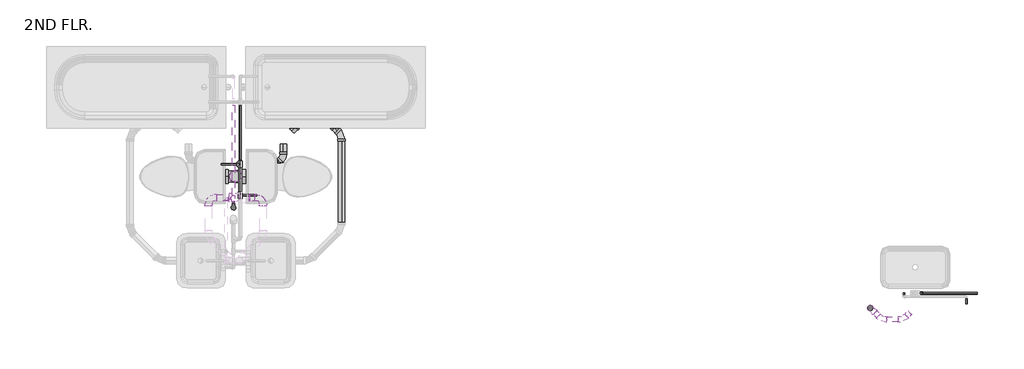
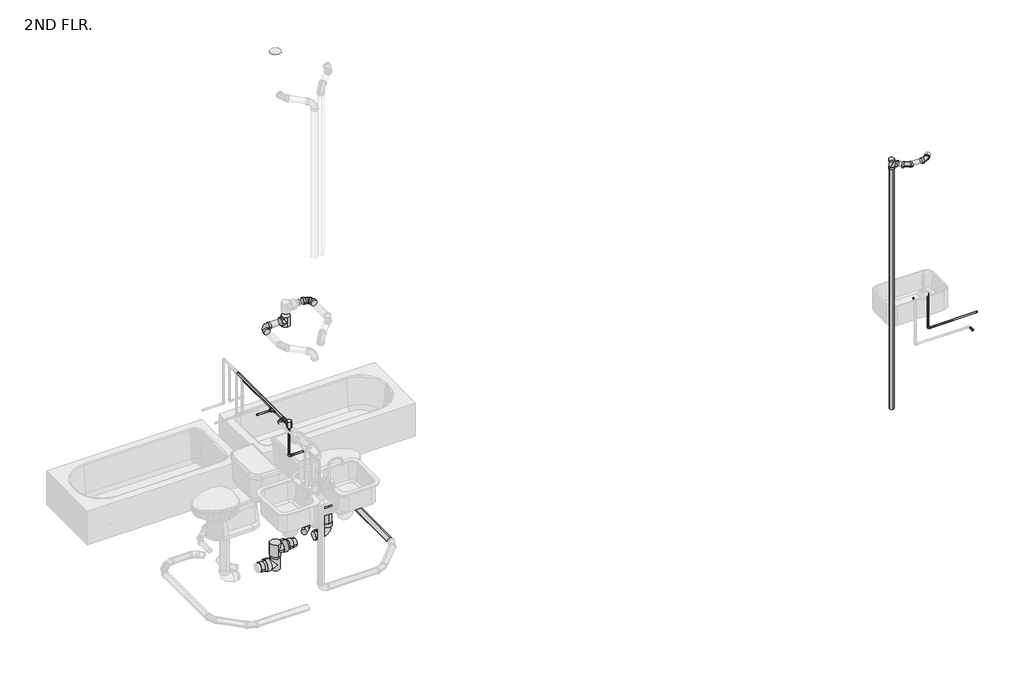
# One storey, part 11 of 15: 30 pipe segments, 29 pipe fittings.
"""IFC4 building model written with IfcOpenShell, lengths in millimetres."""

from ifc_helpers import new_model, si_unit, point, frame, frame_2d, origin, place, context, project, spatial, circle_curve, trimmed, segment, composite_curve, outline, extrude, transform, mapped, element, save
from components import bend_pvc_sch_40_dwv_standard_c28c2be1, bend_pvc_sch_40_dwv_standard_9a61ab34, bend_pvc_sch_40_dwv_standard_7417f2e3, bend_pvc_sch_40_dwv_standard_1a41d59f, bend_pvc_sch_40_dwv_standard_49f8c181, bend_pvc_sch_40_dwv_standard_f64d1520, bend_pvc_sch_40_dwv_standard_b7f24270, bend_pvc_sch_40_dwv_standard_48e93688, pipe_elbow_copper_k_feaaf02c, pipe_elbow_copper_k_aad62f2d, pipe_elbow_copper_k_4cfe590c, pipe_tee_copper_k_7127fd44, pipe_tee_copper_k_ee363fbf, pipe_tee_copper_k_feafe2f1, pipe_tee_copper_k_8ae7f23d, pipe_tee_standard_6d2680c1, pipe_transition_copper_k_b4f16853, pipe_transition_copper_k_b63fd5dd, pipe_transition_copper_k_92c68de2, reducer_pvc_sch_40_dwv_standard_7c527b54, tee_generic_standard_f53002be, tee_sanitary_pvc_sch_40_dwv_standard_31acfb72

model = new_model("IFC4")

# Units and contexts
model_context = context("Model", 3, world=origin())
ifc_project = project(units=[si_unit("LENGTHUNIT", "METRE", prefix="MILLI")], contexts=[model_context])

# Site, building, storey
site = spatial("IfcSite", under=ifc_project)
building = spatial("IfcBuilding", under=site)
storey = spatial("IfcBuildingStorey", under=building, Name="2ND FLR.", Elevation=2844.8)

# Pipe fittings
placement = place(None, origin())
bend_pvc_sch_40_dwv_standard_shape = bend_pvc_sch_40_dwv_standard_c28c2be1(model_context)
element("IfcPipeFitting", 1, ObjectType="Bend - PVC - Sch 40 - DWV : Standard", at=placement, inside=storey, context=model_context, shape_type="MappedRepresentation", body=[
    mapped(bend_pvc_sch_40_dwv_standard_shape, transform((23183.3743364, 1981.9339371, 5528.5490021), x_axis=(-0.7070684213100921, -0.7071067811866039, 0.007365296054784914), y_axis=(0.7070684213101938, -0.7071067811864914, -0.007365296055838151), z_axis=(0.010416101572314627, 0.0, 0.9999457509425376))),
])
element("IfcPipeFitting", 2, ObjectType="Bend - PVC - Sch 40 - DWV : Standard", at=placement, inside=storey, context=model_context, shape_type="MappedRepresentation", body=[
    mapped(bend_pvc_sch_40_dwv_standard_shape, transform((17387.0324353, 3982.0521786, 2460.2762698), x_axis=(0.7071067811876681, -0.7071067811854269, 0.0), y_axis=(0.7071067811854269, 0.7071067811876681, 0.0), z_axis=(0.0, 0.0, 1.0))),
])
bend_pvc_sch_40_dwv_standard_2_shape = bend_pvc_sch_40_dwv_standard_9a61ab34(model_context)
element("IfcPipeFitting", 3, ObjectType="Bend - PVC - Sch 40 - DWV : Standard", at=placement, inside=storey, context=model_context, shape_type="MappedRepresentation", body=[
    mapped(bend_pvc_sch_40_dwv_standard_2_shape, transform((22985.4285818, 1981.9339371, 5530.610937), x_axis=(-0.9999457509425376, 0.0, 0.010416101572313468), y_axis=(-4.542044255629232e-05, -0.9999904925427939, -0.004360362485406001), z_axis=(0.010416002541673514, -0.004360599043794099, 0.9999362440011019))),
])
bend_pvc_sch_40_dwv_standard_3_shape = bend_pvc_sch_40_dwv_standard_7417f2e3(model_context)
element("IfcPipeFitting", 4, ObjectType="Bend - PVC - Sch 40 - DWV : Standard", at=placement, inside=storey, context=model_context, shape_type="MappedRepresentation", body=[
    mapped(bend_pvc_sch_40_dwv_standard_3_shape, transform((17494.6973263, 3321.8387881, 2458.6878505), x_axis=(0.9999739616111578, 0.0, -0.0072163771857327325), y_axis=(-0.0072163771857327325, 0.0, -0.9999739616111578), z_axis=(0.0, 1.0, 0.0))),
])
bend_pvc_sch_40_dwv_standard_4_shape = bend_pvc_sch_40_dwv_standard_1a41d59f(model_context)
element("IfcPipeFitting", 5, ObjectType="Bend - PVC - Sch 40 - DWV : Standard", at=placement, inside=storey, context=model_context, shape_type="MappedRepresentation", body=[
    mapped(bend_pvc_sch_40_dwv_standard_4_shape, transform((17387.0324353, 3499.7538114, 2460.2762698), x_axis=(0.0, -1.0, 0.0), y_axis=(0.9999186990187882, 0.0, -0.012751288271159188), z_axis=(0.012751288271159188, 0.0, 0.9999186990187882))),
])
bend_pvc_sch_40_dwv_standard_5_shape = bend_pvc_sch_40_dwv_standard_49f8c181(model_context)
element("IfcPipeFitting", 6, ObjectType="Bend - PVC - Sch 40 - DWV : Standard", at=placement, inside=storey, context=model_context, shape_type="MappedRepresentation", body=[
    mapped(bend_pvc_sch_40_dwv_standard_5_shape, transform((17196.3084875, 3124.2879719, 5340.4070012), x_axis=(1.0, 0.0, 0.0), y_axis=(0.0, 0.9999999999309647, -1.1750347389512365e-05), z_axis=(0.0, 1.1750347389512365e-05, 0.9999999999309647))),
])
element("IfcPipeFitting", 7, ObjectType="Bend - PVC - Sch 40 - DWV : Standard", at=placement, inside=storey, context=model_context, shape_type="MappedRepresentation", body=[
    mapped(bend_pvc_sch_40_dwv_standard_5_shape, transform((16688.3084875, 3124.2843904, 5188.0070013), x_axis=(0.0, 0.9999999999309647, -1.1750347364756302e-05), y_axis=(-1.0, 0.0, 0.0), z_axis=(0.0, 1.1750347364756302e-05, 0.9999999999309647))),
])
element("IfcPipeFitting", 8, ObjectType="Bend - PVC - Sch 40 - DWV : Standard", at=placement, inside=storey, context=model_context, shape_type="MappedRepresentation", body=[
    mapped(bend_pvc_sch_40_dwv_standard_5_shape, transform((16688.3084875, 3124.2539231, 5187.9916847), x_axis=(0.0, 0.9999999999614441, -8.78134569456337e-06), y_axis=(-1.0000000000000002, 0.0, 0.0), z_axis=(0.0, 8.78134569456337e-06, 0.9999999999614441))),
])
bend_pvc_sch_40_dwv_standard_6_shape = bend_pvc_sch_40_dwv_standard_f64d1520(model_context)
element("IfcPipeFitting", 9, ObjectType="Bend - PVC - Sch 40 - DWV : Standard", at=placement, inside=storey, context=model_context, shape_type="MappedRepresentation", body=[
    mapped(bend_pvc_sch_40_dwv_standard_6_shape, transform((17932.9116554, 3711.432803, 2461.1421724), x_axis=(0.707106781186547, -0.707106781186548, 0.0), y_axis=(0.707106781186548, 0.707106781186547, 0.0), z_axis=(0.0, 0.0, 1.0))),
])
element("IfcPipeFitting", 10, ObjectType="Bend - PVC - Sch 40 - DWV : Standard", at=placement, inside=storey, context=model_context, shape_type="MappedRepresentation", body=[
    mapped(bend_pvc_sch_40_dwv_standard_6_shape, transform((17824.8995099, 3819.4449792, 2460.289971), x_axis=(1.0, 0.0, 0.0), y_axis=(0.0, 1.0, 0.0), z_axis=(0.0, 0.0, 1.0))),
])
bend_pvc_sch_40_dwv_standard_7_shape = bend_pvc_sch_40_dwv_standard_b7f24270(model_context)
element("IfcPipeFitting", 11, ObjectType="Bend - PVC - Sch 40 - DWV : Standard", at=placement, inside=storey, context=model_context, shape_type="MappedRepresentation", body=[
    mapped(bend_pvc_sch_40_dwv_standard_7_shape, transform((17537.5048204, 3819.4449792, 2460.289971), x_axis=(0.7071067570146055, 0.7071067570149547, 0.00026147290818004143), y_axis=(-0.707106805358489, 0.7071067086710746, 0.00026147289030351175), z_axis=(0.0, -0.00036977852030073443, 0.9999999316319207))),
])
bend_pvc_sch_40_dwv_standard_8_shape = bend_pvc_sch_40_dwv_standard_48e93688(model_context)
element("IfcPipeFitting", 12, ObjectType="Bend - PVC - Sch 40 - DWV : Standard", at=placement, inside=storey, context=model_context, shape_type="MappedRepresentation", body=[
    mapped(bend_pvc_sch_40_dwv_standard_8_shape, transform((17196.3085485, 3124.2566719, 5340.3916904), x_axis=(0.9999989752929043, 0.0, -0.0014315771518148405), y_axis=(-1.2572891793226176e-08, 0.9999999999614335, -8.782538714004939e-06), z_axis=(0.0014315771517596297, 8.782547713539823e-06, 0.9999989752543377))),
])
pipe_elbow_copper_k_shape = pipe_elbow_copper_k_feaaf02c(model_context)
element("IfcPipeFitting", 13, ObjectType="Pipe Elbow : Copper- K", at=placement, inside=storey, context=model_context, shape_type="MappedRepresentation", body=[
    mapped(pipe_elbow_copper_k_shape, transform((16852.2209875, 3115.2451388, 4064.0), x_axis=(-1.0, 0.0, 0.0), y_axis=(0.0, -1.0, 0.0), z_axis=(0.0, 0.0, 1.0))),
])
pipe_elbow_copper_k_2_shape = pipe_elbow_copper_k_aad62f2d(model_context)
element("IfcPipeFitting", 14, ObjectType="Pipe Elbow : Copper- K", at=placement, inside=storey, context=model_context, shape_type="MappedRepresentation", body=[
    mapped(pipe_elbow_copper_k_2_shape, transform((16983.9834875, 3144.8746817, 3606.8), x_axis=(0.0, 0.0, -1.0), y_axis=(1.0, 0.0, 0.0), z_axis=(0.0, -1.0, 0.0))),
])
pipe_elbow_copper_k_3_shape = pipe_elbow_copper_k_4cfe590c(model_context)
element("IfcPipeFitting", 15, ObjectType="Pipe Elbow : Copper- K", at=placement, inside=storey, context=model_context, shape_type="MappedRepresentation", body=[
    mapped(pipe_elbow_copper_k_3_shape, transform((23351.0913377, 2227.8137881, 3393.4796875), x_axis=(-0.9999999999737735, 0.0, 7.242448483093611e-06), y_axis=(7.242448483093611e-06, 0.0, 0.9999999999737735), z_axis=(0.0, 1.0, 0.0))),
])
pipe_tee_copper_k_shape = pipe_tee_copper_k_7127fd44(model_context)
element("IfcPipeFitting", 16, ObjectType="Pipe Tee : Copper- K", at=placement, inside=storey, context=model_context, shape_type="MappedRepresentation", body=[
    mapped(pipe_tee_copper_k_shape, transform((16920.4834875, 3029.9911151, 4064.0), x_axis=(0.0, 0.0, 1.0), y_axis=(0.0, -1.0, 0.0), z_axis=(1.0, 0.0, 0.0))),
])
pipe_tee_copper_k_2_shape = pipe_tee_copper_k_ee363fbf(model_context)
element("IfcPipeFitting", 17, ObjectType="Pipe Tee : Copper- K", at=placement, inside=storey, context=model_context, shape_type="MappedRepresentation", body=[
    mapped(pipe_tee_copper_k_2_shape, transform((16920.4834875, 3115.2451388, 4064.0), x_axis=(0.0, 1.0, 0.0), y_axis=(1.0, 0.0, 0.0), z_axis=(0.0, 0.0, -1.0))),
])
pipe_tee_copper_k_3_shape = pipe_tee_copper_k_feafe2f1(model_context)
element("IfcPipeFitting", 18, ObjectType="Pipe Tee : Copper- K", at=placement, inside=storey, context=model_context, shape_type="MappedRepresentation", body=[
    mapped(pipe_tee_copper_k_3_shape, transform((16983.9834875, 3144.8746817, 3962.4), x_axis=(0.0, -1.0, 0.0), y_axis=(0.0, 0.0, 1.0), z_axis=(-1.0, 0.0, 0.0))),
])
element("IfcPipeFitting", 19, ObjectType="Pipe Tee : Copper- K", at=placement, inside=storey, context=model_context, shape_type="MappedRepresentation", body=[
    mapped(pipe_tee_copper_k_3_shape, transform((16983.9834875, 3436.6777335, 3962.4), x_axis=(0.0, -1.0, 0.0), y_axis=(1.0, 0.0, 0.0), z_axis=(0.0, 0.0, 1.0))),
])
pipe_tee_copper_k_4_shape = pipe_tee_copper_k_8ae7f23d(model_context)
element("IfcPipeFitting", 20, ObjectType="Pipe Tee : Copper- K", at=placement, inside=storey, context=model_context, shape_type="MappedRepresentation", body=[
    mapped(pipe_tee_copper_k_4_shape, transform((16935.7559337, 3124.1638117, 5187.95), x_axis=(0.0, 0.0, 1.0), y_axis=(-1.0, 0.0, 0.0), z_axis=(0.0, -1.0, 0.0))),
])
pipe_tee_standard_shape = pipe_tee_standard_6d2680c1(model_context)
element("IfcPipeFitting", 21, ObjectType="Pipe Tee : Standard", at=placement, inside=storey, context=model_context, shape_type="MappedRepresentation", body=[
    mapped(pipe_tee_standard_shape, transform((16935.7431474, 3321.8387881, 2462.7215797), x_axis=(-6.991457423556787e-08, 0.0, 0.9999999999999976), y_axis=(0.9999999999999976, 0.0, 6.991457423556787e-08), z_axis=(0.0, 1.0, 0.0))),
])
pipe_transition_copper_k_shape = pipe_transition_copper_k_b4f16853(model_context)
element("IfcPipeFitting", 22, ObjectType="Pipe Transition : Copper- K", at=placement, inside=storey, context=model_context, shape_type="MappedRepresentation", body=[
    mapped(pipe_transition_copper_k_shape, transform((16983.9834875, 3466.8402335, 3962.4), x_axis=(0.0, 1.0, 0.0), y_axis=(-1.0, 0.0, 0.0), z_axis=(0.0, 0.0, 1.0))),
])
pipe_transition_copper_k_2_shape = pipe_transition_copper_k_b63fd5dd(model_context)
element("IfcPipeFitting", 23, ObjectType="Pipe Transition : Copper- K", at=placement, inside=storey, context=model_context, shape_type="MappedRepresentation", body=[
    mapped(pipe_transition_copper_k_2_shape, transform((16983.9834875, 3144.8746817, 3932.2375), x_axis=(0.0, 0.0, -1.0), y_axis=(0.0, 1.0, 0.0), z_axis=(1.0, 0.0, 0.0))),
])
element("IfcPipeFitting", 24, ObjectType="Pipe Transition : Copper- K", at=placement, inside=storey, context=model_context, shape_type="MappedRepresentation", body=[
    mapped(pipe_transition_copper_k_2_shape, transform((16953.8209875, 3436.6777335, 3962.4), x_axis=(-1.0, 0.0, 0.0), y_axis=(0.0, -1.0, 0.0), z_axis=(0.0, 0.0, 1.0))),
])
pipe_transition_copper_k_3_shape = pipe_transition_copper_k_92c68de2(model_context)
element("IfcPipeFitting", 25, ObjectType="Pipe Transition : Copper- K", at=placement, inside=storey, context=model_context, shape_type="MappedRepresentation", body=[
    mapped(pipe_transition_copper_k_3_shape, transform((16920.4834875, 3066.5036151, 4064.0), x_axis=(0.0, 1.0, 0.0), y_axis=(-1.0, 0.0, 0.0), z_axis=(0.0, 0.0, 1.0))),
])
reducer_pvc_sch_40_dwv_standard_shape = reducer_pvc_sch_40_dwv_standard_7c527b54(model_context)
element("IfcPipeFitting", 26, ObjectType="Reducer - PVC - Sch 40 - DWV : Standard", at=placement, inside=storey, context=model_context, shape_type="MappedRepresentation", body=[
    mapped(reducer_pvc_sch_40_dwv_standard_shape, transform((16870.6843999, 3321.8387881, 2304.475401), x_axis=(-0.9999739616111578, 0.0, -0.007216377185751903), y_axis=(0.007216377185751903, 0.0, -0.9999739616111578), z_axis=(0.0, -1.0, 0.0))),
])
element("IfcPipeFitting", 27, ObjectType="Reducer - PVC - Sch 40 - DWV : Standard", at=placement, inside=storey, context=model_context, shape_type="MappedRepresentation", body=[
    mapped(reducer_pvc_sch_40_dwv_standard_shape, transform((17004.00387, 3321.8387881, 2462.2289718), x_axis=(0.9999739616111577, 0.0, -0.007216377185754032), y_axis=(-0.007216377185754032, 0.0, -0.9999739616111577), z_axis=(0.0, 1.0, 0.0))),
])
tee_generic_standard_shape = tee_generic_standard_f53002be(model_context)
element("IfcPipeFitting", 28, ObjectType="Tee - Generic : Standard", at=placement, inside=storey, context=model_context, shape_type="MappedRepresentation", body=[
    mapped(tee_generic_standard_shape, transform((16935.7702051, 3321.8387881, 2304.945097), x_axis=(-6.991457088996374e-08, 0.0, 0.9999999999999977), y_axis=(-0.9999999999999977, 0.0, -6.991457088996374e-08), z_axis=(0.0, -1.0, 0.0))),
])
tee_sanitary_pvc_sch_40_dwv_standard_shape = tee_sanitary_pvc_sch_40_dwv_standard_31acfb72(model_context)
element("IfcPipeFitting", 29, ObjectType="Tee Sanitary - PVC - Sch 40 - DWV : Standard", at=placement, inside=storey, context=model_context, shape_type="MappedRepresentation", body=[
    mapped(tee_sanitary_pvc_sch_40_dwv_standard_shape, transform((22877.6611988, 2088.8641446, 5532.1998234), x_axis=(0.0, 0.0, 1.0), y_axis=(0.7098586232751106, -0.7043441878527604, 0.0), z_axis=(0.7043441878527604, 0.7098586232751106, 0.0))),
])

# Pipe segments
element("IfcPipeSegment", 30, ObjectType="Copper", at=placement, inside=storey, context=model_context, shape_type="SweptSolid", body=[
    extrude(outline(composite_curve([segment(trimmed(circle_curve(frame_2d((3115.2451388, 4064.0)), 11.1125), [point((3104.1326388, 4064.0))], [point((3115.2451388, 4075.1125))], False, "CARTESIAN"), True, "CONTINUOUS"), segment(trimmed(circle_curve(frame_2d((3115.2451388, 4064.0)), 11.1125), [point((3115.2451388, 4075.1125))], [point((3126.3576388, 4064.0))], False, "CARTESIAN"), True, "CONTINUOUS"), segment(trimmed(circle_curve(frame_2d((3115.2451388, 4064.0)), 11.1125), [point((3126.3576388, 4064.0))], [point((3115.2451388, 4052.8875))], False, "CARTESIAN"), True, "CONTINUOUS"), segment(trimmed(circle_curve(frame_2d((3115.2451388, 4064.0)), 11.1125), [point((3115.2451388, 4052.8875))], [point((3104.1326388, 4064.0))], False, "CARTESIAN"), True, "CONTINUOUS")], self_intersect=False)), frame((16872.8584875, 0.0, 0.0), z_axis=(1.0, 0.0, 0.0), x_axis=(0.0, 1.0, 0.0)), (0.0, 0.0, 1.0), 20.6375),
])
element("IfcPipeSegment", 31, ObjectType="Copper", at=placement, inside=storey, context=model_context, shape_type="SweptSolid", body=[
    extrude(outline(composite_curve([segment(trimmed(circle_curve(frame_2d((3144.8746817, 3606.8)), 7.9375), [point((3136.9371817, 3606.8))], [point((3144.8746817, 3614.7375))], False, "CARTESIAN"), True, "CONTINUOUS"), segment(trimmed(circle_curve(frame_2d((3144.8746817, 3606.8)), 7.9375), [point((3144.8746817, 3614.7375))], [point((3152.8121817, 3606.8))], False, "CARTESIAN"), True, "CONTINUOUS"), segment(trimmed(circle_curve(frame_2d((3144.8746817, 3606.8)), 7.9375), [point((3152.8121817, 3606.8))], [point((3144.8746817, 3598.8625))], False, "CARTESIAN"), True, "CONTINUOUS"), segment(trimmed(circle_curve(frame_2d((3144.8746817, 3606.8)), 7.9375), [point((3144.8746817, 3598.8625))], [point((3136.9371817, 3606.8))], False, "CARTESIAN"), True, "CONTINUOUS")], self_intersect=False)), frame((17001.4459875, 0.0, 0.0), z_axis=(1.0, 0.0, 0.0), x_axis=(0.0, 1.0, 0.0)), (0.0, 0.0, 1.0), 134.9375),
])
element("IfcPipeSegment", 32, ObjectType="Copper", at=placement, inside=storey, context=model_context, shape_type="SweptSolid", body=[
    extrude(outline(composite_curve([segment(trimmed(circle_curve(frame_2d((16983.9834875, 3144.8746817)), 7.9375), [point((16991.9209875, 3144.8746817))], [point((16983.9834875, 3136.9371817))], False, "CARTESIAN"), True, "CONTINUOUS"), segment(trimmed(circle_curve(frame_2d((16983.9834875, 3144.8746817)), 7.9375), [point((16983.9834875, 3136.9371817))], [point((16976.0459875, 3144.8746817))], False, "CARTESIAN"), True, "CONTINUOUS"), segment(trimmed(circle_curve(frame_2d((16983.9834875, 3144.8746817)), 7.9375), [point((16976.0459875, 3144.8746817))], [point((16983.9834875, 3152.8121817))], False, "CARTESIAN"), True, "CONTINUOUS"), segment(trimmed(circle_curve(frame_2d((16983.9834875, 3144.8746817)), 7.9375), [point((16983.9834875, 3152.8121817))], [point((16991.9209875, 3144.8746817))], False, "CARTESIAN"), True, "CONTINUOUS")], self_intersect=False)), frame((0.0, 0.0, 3624.2625), z_axis=(0.0, 0.0, 1.0), x_axis=(1.0, 0.0, 0.0)), (0.0, 0.0, 1.0), 300.83125),
])
element("IfcPipeSegment", 33, ObjectType="Copper", at=placement, inside=storey, context=model_context, shape_type="SweptSolid", body=[
    extrude(outline(composite_curve([segment(trimmed(circle_curve(frame_2d((3436.6777335, 3962.4)), 7.9375), [point((3444.6152335, 3962.4))], [point((3436.6777335, 3954.4625))], False, "CARTESIAN"), True, "CONTINUOUS"), segment(trimmed(circle_curve(frame_2d((3436.6777335, 3962.4)), 7.9375), [point((3436.6777335, 3954.4625))], [point((3428.7402335, 3962.4))], False, "CARTESIAN"), True, "CONTINUOUS"), segment(trimmed(circle_curve(frame_2d((3436.6777335, 3962.4)), 7.9375), [point((3428.7402335, 3962.4))], [point((3436.6777335, 3970.3375))], False, "CARTESIAN"), True, "CONTINUOUS"), segment(trimmed(circle_curve(frame_2d((3436.6777335, 3962.4)), 7.9375), [point((3436.6777335, 3970.3375))], [point((3444.6152335, 3962.4))], False, "CARTESIAN"), True, "CONTINUOUS")], self_intersect=False)), frame((16806.1834875, 0.0, 0.0), z_axis=(1.0, 0.0, 0.0), x_axis=(0.0, 1.0, 0.0)), (0.0, 0.0, 1.0), 140.49375),
])
element("IfcPipeSegment", 34, ObjectType="Copper", at=placement, inside=storey, context=model_context, shape_type="SweptSolid", body=[
    extrude(outline(composite_curve([segment(trimmed(circle_curve(frame_2d((3962.4, 16983.9834875)), 14.2875), [point((3962.4, 16998.2709875))], [point((3976.6875, 16983.9834875))], False, "CARTESIAN"), True, "CONTINUOUS"), segment(trimmed(circle_curve(frame_2d((3962.4, 16983.9834875)), 14.2875), [point((3976.6875, 16983.9834875))], [point((3962.4, 16969.6959875))], False, "CARTESIAN"), True, "CONTINUOUS"), segment(trimmed(circle_curve(frame_2d((3962.4, 16983.9834875)), 14.2875), [point((3962.4, 16969.6959875))], [point((3948.1125, 16983.9834875))], False, "CARTESIAN"), True, "CONTINUOUS"), segment(trimmed(circle_curve(frame_2d((3962.4, 16983.9834875)), 14.2875), [point((3948.1125, 16983.9834875))], [point((3962.4, 16998.2709875))], False, "CARTESIAN"), True, "CONTINUOUS")], self_intersect=False)), frame((0.0, 3175.0371817, 0.0), z_axis=(0.0, 1.0, 0.0), x_axis=(0.0, 0.0, 1.0)), (0.0, 0.0, 1.0), 231.4780518),
])
element("IfcPipeSegment", 35, ObjectType="Copper", at=placement, inside=storey, context=model_context, shape_type="SweptSolid", body=[
    extrude(outline(composite_curve([segment(trimmed(circle_curve(frame_2d((3962.4, 16983.9834875)), 11.1125), [point((3962.4, 16995.0959875))], [point((3973.5125, 16983.9834875))], False, "CARTESIAN"), True, "CONTINUOUS"), segment(trimmed(circle_curve(frame_2d((3962.4, 16983.9834875)), 11.1125), [point((3973.5125, 16983.9834875))], [point((3962.4, 16972.8709875))], False, "CARTESIAN"), True, "CONTINUOUS"), segment(trimmed(circle_curve(frame_2d((3962.4, 16983.9834875)), 11.1125), [point((3962.4, 16972.8709875))], [point((3951.2875, 16983.9834875))], False, "CARTESIAN"), True, "CONTINUOUS"), segment(trimmed(circle_curve(frame_2d((3962.4, 16983.9834875)), 11.1125), [point((3951.2875, 16983.9834875))], [point((3962.4, 16995.0959875))], False, "CARTESIAN"), True, "CONTINUOUS")], self_intersect=False)), frame((0.0, 3473.9839835, 0.0), z_axis=(0.0, 1.0, 0.0), x_axis=(0.0, 0.0, 1.0)), (0.0, 0.0, 1.0), 517.2338736),
])
element("IfcPipeSegment", 36, ObjectType="Copper", at=placement, inside=storey, context=model_context, shape_type="SweptSolid", body=[
    extrude(outline(composite_curve([segment(trimmed(circle_curve(frame_2d((0.0, -11.1125)), 11.1125), [point((0.0, 0.0))], [point((11.1125, -11.1125))], False, "CARTESIAN"), True, "CONTINUOUS"), segment(trimmed(circle_curve(frame_2d((0.0, -11.1125)), 11.1125), [point((11.1125, -11.1125))], [point((0.0, -22.225))], False, "CARTESIAN"), True, "CONTINUOUS"), segment(trimmed(circle_curve(frame_2d((0.0, -11.1125)), 11.1125), [point((0.0, -22.225))], [point((-11.1125, -11.1125))], False, "CARTESIAN"), True, "CONTINUOUS"), segment(trimmed(circle_curve(frame_2d((0.0, -11.1125)), 11.1125), [point((-11.1125, -11.1125))], [point((0.0, 0.0))], False, "CARTESIAN"), True, "CONTINUOUS")], self_intersect=False)), frame((16909.3709875, 3076.8223651, 4064.0), z_axis=(1.1449888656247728e-12, 1.0, 0.0), x_axis=(0.0, 0.0, -1.0)), (0.0, 0.0, 1.0), 11.4352737),
])
element("IfcPipeSegment", 37, ObjectType="Copper", at=placement, inside=storey, context=model_context, shape_type="SweptSolid", body=[
    extrude(outline(composite_curve([segment(trimmed(circle_curve(frame_2d((4064.0, 16920.4834875)), 11.1125), [point((4064.0, 16909.3709875))], [point((4052.8875, 16920.4834875))], False, "CARTESIAN"), True, "CONTINUOUS"), segment(trimmed(circle_curve(frame_2d((4064.0, 16920.4834875)), 11.1125), [point((4052.8875, 16920.4834875))], [point((4064.0, 16931.5959875))], False, "CARTESIAN"), True, "CONTINUOUS"), segment(trimmed(circle_curve(frame_2d((4064.0, 16920.4834875)), 11.1125), [point((4064.0, 16931.5959875))], [point((4075.1125, 16920.4834875))], False, "CARTESIAN"), True, "CONTINUOUS"), segment(trimmed(circle_curve(frame_2d((4064.0, 16920.4834875)), 11.1125), [point((4075.1125, 16920.4834875))], [point((4064.0, 16909.3709875))], False, "CARTESIAN"), True, "CONTINUOUS")], self_intersect=False)), frame((0.0, 3142.2326388, 0.0), z_axis=(0.0, 1.0, 0.0), x_axis=(0.0, 0.0, 1.0)), (0.0, 0.0, 1.0), 848.9852183),
])
element("IfcPipeSegment", 38, ObjectType="Copper", at=placement, inside=storey, context=model_context, shape_type="SweptSolid", body=[
    extrude(outline(composite_curve([segment(trimmed(circle_curve(frame_2d((3789.6601562, 23193.8391516)), 7.9375), [point((3789.6601562, 23201.7766516))], [point((3797.5976562, 23193.8391516))], False, "CARTESIAN"), True, "CONTINUOUS"), segment(trimmed(circle_curve(frame_2d((3789.6601562, 23193.8391516)), 7.9375), [point((3797.5976562, 23193.8391516))], [point((3789.6601562, 23185.9016516))], False, "CARTESIAN"), True, "CONTINUOUS"), segment(trimmed(circle_curve(frame_2d((3789.6601562, 23193.8391516)), 7.9375), [point((3789.6601562, 23185.9016516))], [point((3781.7226562, 23193.8391516))], False, "CARTESIAN"), True, "CONTINUOUS"), segment(trimmed(circle_curve(frame_2d((3789.6601562, 23193.8391516)), 7.9375), [point((3781.7226562, 23193.8391516))], [point((3789.6601562, 23201.7766516))], False, "CARTESIAN"), True, "CONTINUOUS")], self_intersect=False)), frame((0.0, 2213.188365, 0.0), z_axis=(0.0, 1.0, 0.0), x_axis=(0.0, 0.0, 1.0)), (0.0, 0.0, 1.0), 17.3178158),
])
element("IfcPipeSegment", 39, ObjectType="Copper", at=placement, inside=storey, context=model_context, shape_type="SweptSolid", body=[
    extrude(outline(composite_curve([segment(trimmed(circle_curve(frame_2d((0.0, 7.9375)), 7.9375), [point((-7.9375, 7.9375))], [point((0.0, 15.875))], False, "CARTESIAN"), True, "CONTINUOUS"), segment(trimmed(circle_curve(frame_2d((0.0, 7.9375)), 7.9375), [point((0.0, 15.875))], [point((7.9375, 7.9375))], False, "CARTESIAN"), True, "CONTINUOUS"), segment(trimmed(circle_curve(frame_2d((0.0, 7.9375)), 7.9375), [point((7.9375, 7.9375))], [point((0.0, 0.0))], False, "CARTESIAN"), True, "CONTINUOUS"), segment(trimmed(circle_curve(frame_2d((0.0, 7.9375)), 7.9375), [point((0.0, 0.0))], [point((-7.9375, 7.9375))], False, "CARTESIAN"), True, "CONTINUOUS")], self_intersect=False)), frame((23879.7287803, 2227.8137881, 3385.5383589), z_axis=(-0.9999999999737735, 0.0, 7.24244837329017e-06), x_axis=(0.0, -1.0, 0.0)), (0.0, 0.0, 1.0), 511.1751265),
])
element("IfcPipeSegment", 40, ObjectType="Copper", at=placement, inside=storey, context=model_context, shape_type="SweptSolid", body=[
    extrude(outline(composite_curve([segment(trimmed(circle_curve(frame_2d((23351.0913377, 2227.8137881)), 7.9375), [point((23343.1538377, 2227.8137881))], [point((23351.0913377, 2235.7512881))], False, "CARTESIAN"), True, "CONTINUOUS"), segment(trimmed(circle_curve(frame_2d((23351.0913377, 2227.8137881)), 7.9375), [point((23351.0913377, 2235.7512881))], [point((23359.0288377, 2227.8137881))], False, "CARTESIAN"), True, "CONTINUOUS"), segment(trimmed(circle_curve(frame_2d((23351.0913377, 2227.8137881)), 7.9375), [point((23359.0288377, 2227.8137881))], [point((23351.0913377, 2219.8762881))], False, "CARTESIAN"), True, "CONTINUOUS"), segment(trimmed(circle_curve(frame_2d((23351.0913377, 2227.8137881)), 7.9375), [point((23351.0913377, 2219.8762881))], [point((23343.1538377, 2227.8137881))], False, "CARTESIAN"), True, "CONTINUOUS")], self_intersect=False)), frame((0.0, 0.0, 3410.942061), z_axis=(0.0, 0.0, 1.0), x_axis=(1.0, 0.0, 0.0)), (0.0, 0.0, 1.0), 378.7180952),
])
element("IfcPipeSegment", 41, ObjectType="Copper", at=placement, inside=storey, context=model_context, shape_type="SweptSolid", body=[
    extrude(outline(composite_curve([segment(trimmed(circle_curve(frame_2d((0.0, 7.9375)), 7.9375), [point((0.0, 15.875))], [point((7.9374999, 7.9375))], False, "CARTESIAN"), True, "CONTINUOUS"), segment(trimmed(circle_curve(frame_2d((0.0, 7.9375)), 7.9375), [point((7.9374999, 7.9375))], [point((0.0, 0.0))], False, "CARTESIAN"), True, "CONTINUOUS"), segment(trimmed(circle_curve(frame_2d((0.0, 7.9375)), 7.9375), [point((0.0, 0.0))], [point((-7.9375, 7.9375))], False, "CARTESIAN"), True, "CONTINUOUS"), segment(trimmed(circle_curve(frame_2d((0.0, 7.9375)), 7.9375), [point((-7.9375, 7.9375))], [point((0.0, 15.875))], False, "CARTESIAN"), True, "CONTINUOUS")], self_intersect=False)), frame((23770.1016516, 2128.1124308, 3281.6214111), z_axis=(0.0, 0.999999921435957, 0.00039639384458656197), x_axis=(0.0, -0.00039639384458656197, 0.999999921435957)), (0.0, 0.0, 1.0), 50.1509484),
])
element("IfcPipeSegment", 42, ObjectType="PVC - SAN/STORM", at=placement, inside=storey, context=model_context, shape_type="SweptSolid", body=[
    extrude(outline(composite_curve([segment(trimmed(circle_curve(frame_2d((0.0, 24.1300001)), 24.13), [point((-24.1293456, 24.3077102))], [point((0.1777101, 48.2593457))], False, "CARTESIAN"), True, "CONTINUOUS"), segment(trimmed(circle_curve(frame_2d((0.0, 24.1300001)), 24.13), [point((0.1777101, 48.2593457))], [point((24.1293456, 23.95229))], False, "CARTESIAN"), True, "CONTINUOUS"), segment(trimmed(circle_curve(frame_2d((0.0, 24.1300001)), 24.13), [point((24.1293456, 23.95229))], [point((-0.1777101, 0.0006545))], False, "CARTESIAN"), True, "CONTINUOUS"), segment(trimmed(circle_curve(frame_2d((0.0, 24.1300001)), 24.13), [point((-0.1777101, 0.0006545))], [point((-24.1293456, 24.3077102))], False, "CARTESIAN"), True, "CONTINUOUS")], self_intersect=False)), frame((23247.3663086, 2045.6780541, 5503.7537279), z_axis=(-0.7070684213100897, -0.7071067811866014, 0.0073652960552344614), x_axis=(0.707145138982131, -0.70703006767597, 0.007364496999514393)), (0.0, 0.0, 1.0), 44.4784246),
])
element("IfcPipeSegment", 43, ObjectType="PVC - SAN/STORM", at=placement, inside=storey, context=model_context, shape_type="SweptSolid", body=[
    extrude(outline(composite_curve([segment(trimmed(circle_curve(frame_2d((0.0, 24.13)), 24.13), [point((0.0, 48.26))], [point((24.13, 24.13))], False, "CARTESIAN"), True, "CONTINUOUS"), segment(trimmed(circle_curve(frame_2d((0.0, 24.13)), 24.13), [point((24.13, 24.13))], [point((0.0, 0.0))], False, "CARTESIAN"), True, "CONTINUOUS"), segment(trimmed(circle_curve(frame_2d((0.0, 24.13)), 24.13), [point((0.0, 0.0))], [point((-24.13, 24.13))], False, "CARTESIAN"), True, "CONTINUOUS"), segment(trimmed(circle_curve(frame_2d((0.0, 24.13)), 24.13), [point((-24.13, 24.13))], [point((0.0, 48.26))], False, "CARTESIAN"), True, "CONTINUOUS")], self_intersect=False)), frame((23137.3520332, 1957.8039371, 5529.0284011), z_axis=(-0.9999457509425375, 0.0, 0.010416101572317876), x_axis=(0.010416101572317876, 0.0, 0.9999457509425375)), (0.0, 0.0, 1.0), 105.9068936),
])
element("IfcPipeSegment", 44, ObjectType="PVC - SAN/STORM", at=placement, inside=storey, context=model_context, shape_type="SweptSolid", body=[
    extrude(outline(composite_curve([segment(trimmed(circle_curve(frame_2d((0.0, 24.13)), 24.13), [point((24.128658, 24.3844918))], [point((0.2544918, 0.001342))], False, "CARTESIAN"), True, "CONTINUOUS"), segment(trimmed(circle_curve(frame_2d((0.0, 24.13)), 24.13), [point((0.2544918, 0.001342))], [point((-24.1286579, 23.8755083))], False, "CARTESIAN"), True, "CONTINUOUS"), segment(trimmed(circle_curve(frame_2d((0.0, 24.13)), 24.13), [point((-24.1286579, 23.8755083))], [point((-0.2544917, 48.258658))], False, "CARTESIAN"), True, "CONTINUOUS"), segment(trimmed(circle_curve(frame_2d((0.0, 24.13)), 24.13), [point((-0.2544917, 48.258658))], [point((24.128658, 24.3844918))], False, "CARTESIAN"), True, "CONTINUOUS")], self_intersect=False)), frame((22952.7592698, 2013.9909518, 5555.2199391), z_axis=(-0.7098197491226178, 0.7043056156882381, 0.010465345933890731), x_axis=(0.7043833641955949, 0.7097414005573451, 0.010546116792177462)), (0.0, 0.0, 1.0), 43.8989906),
])
element("IfcPipeSegment", 45, ObjectType="PVC - SAN/STORM", at=placement, inside=storey, context=model_context, shape_type="SweptSolid", body=[
    extrude(outline(composite_curve([segment(trimmed(circle_curve(frame_2d((22877.6611988, 2088.8641446)), 24.13), [point((22901.7911988, 2088.8641446))], [point((22877.6611988, 2064.7341446))], False, "CARTESIAN"), True, "CONTINUOUS"), segment(trimmed(circle_curve(frame_2d((22877.6611988, 2088.8641446)), 24.13), [point((22877.6611988, 2064.7341446))], [point((22853.5311988, 2088.8641446))], False, "CARTESIAN"), True, "CONTINUOUS"), segment(trimmed(circle_curve(frame_2d((22877.6611988, 2088.8641446)), 24.13), [point((22853.5311988, 2088.8641446))], [point((22877.6611988, 2112.9941446))], False, "CARTESIAN"), True, "CONTINUOUS"), segment(trimmed(circle_curve(frame_2d((22877.6611988, 2088.8641446)), 24.13), [point((22877.6611988, 2112.9941446))], [point((22901.7911988, 2088.8641446))], False, "CARTESIAN"), True, "CONTINUOUS")], self_intersect=False)), frame((0.0, 0.0, 2732.6657899), z_axis=(0.0, 0.0, 1.0), x_axis=(1.0, 0.0, 0.0)), (0.0, 0.0, 1.0), 2737.6342335),
])
element("IfcPipeSegment", 46, ObjectType="PVC - SAN/STORM", at=placement, inside=storey, context=model_context, shape_type="SweptSolid", body=[
    extrude(outline(composite_curve([segment(trimmed(circle_curve(frame_2d((0.0, -44.45)), 44.45), [point((0.0, -88.9))], [point((-44.45, -44.45))], False, "CARTESIAN"), True, "CONTINUOUS"), segment(trimmed(circle_curve(frame_2d((0.0, -44.45)), 44.45), [point((-44.45, -44.45))], [point((0.0, 0.0))], False, "CARTESIAN"), True, "CONTINUOUS"), segment(trimmed(circle_curve(frame_2d((0.0, -44.45)), 44.45), [point((0.0, 0.0))], [point((44.45, -44.45))], False, "CARTESIAN"), True, "CONTINUOUS"), segment(trimmed(circle_curve(frame_2d((0.0, -44.45)), 44.45), [point((44.45, -44.45))], [point((0.0, -88.9))], False, "CARTESIAN"), True, "CONTINUOUS")], self_intersect=False)), frame((17148.7939828, 3366.2887881, 2461.1840845), z_axis=(-0.9999739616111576, 0.0, 0.007216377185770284), x_axis=(0.007216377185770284, 0.0, 0.9999739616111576)), (0.0, 0.0, 1.0), 38.418683),
])
element("IfcPipeSegment", 47, ObjectType="PVC - SAN/STORM", at=placement, inside=storey, context=model_context, shape_type="SweptSolid", body=[
    extrude(outline(composite_curve([segment(trimmed(circle_curve(frame_2d((0.0, 44.45)), 44.45), [point((-44.4500001, 44.45))], [point((0.0, 88.9))], False, "CARTESIAN"), True, "CONTINUOUS"), segment(trimmed(circle_curve(frame_2d((0.0, 44.45)), 44.45), [point((0.0, 88.9))], [point((44.45, 44.45))], False, "CARTESIAN"), True, "CONTINUOUS"), segment(trimmed(circle_curve(frame_2d((0.0, 44.45)), 44.45), [point((44.45, 44.45))], [point((0.0, 0.0))], False, "CARTESIAN"), True, "CONTINUOUS"), segment(trimmed(circle_curve(frame_2d((0.0, 44.45)), 44.45), [point((0.0, 0.0))], [point((-44.4500001, 44.45))], False, "CARTESIAN"), True, "CONTINUOUS")], self_intersect=False)), frame((17494.6973263, 3277.3887881, 2574.5880505), z_axis=(5.0312814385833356e-05, 0.0, 0.9999999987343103), x_axis=(0.9999999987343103, 0.0, -5.0312814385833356e-05)), (0.0, 0.0, 1.0), 270.2119498),
])
element("IfcPipeSegment", 48, ObjectType="PVC - SAN/STORM", at=placement, inside=storey, context=model_context, shape_type="SweptSolid", body=[
    extrude(outline(composite_curve([segment(trimmed(circle_curve(frame_2d((0.0, 30.1625)), 30.1625), [point((30.1625, 30.1625))], [point((0.0, 0.0))], False, "CARTESIAN"), True, "CONTINUOUS"), segment(trimmed(circle_curve(frame_2d((0.0, 30.1625)), 30.1625), [point((0.0, 0.0))], [point((-30.1624999, 30.1625))], False, "CARTESIAN"), True, "CONTINUOUS"), segment(trimmed(circle_curve(frame_2d((0.0, 30.1625)), 30.1625), [point((-30.1624999, 30.1625))], [point((0.0, 60.325))], False, "CARTESIAN"), True, "CONTINUOUS"), segment(trimmed(circle_curve(frame_2d((0.0, 30.1625)), 30.1625), [point((0.0, 60.325))], [point((30.1625, 30.1625))], False, "CARTESIAN"), True, "CONTINUOUS")], self_intersect=False)), frame((17305.6551653, 3418.3765414, 2490.9112565), z_axis=(0.7071067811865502, 0.7071067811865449, 0.0), x_axis=(0.7071067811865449, -0.7071067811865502, 0.0)), (0.0, 0.0, 1.0), 62.6867691),
])
element("IfcPipeSegment", 49, ObjectType="PVC - SAN/STORM", at=placement, inside=storey, context=model_context, shape_type="SweptSolid", body=[
    extrude(outline(composite_curve([segment(trimmed(circle_curve(frame_2d((0.0, 44.45)), 44.45), [point((0.0, 88.9))], [point((44.45, 44.45))], False, "CARTESIAN"), True, "CONTINUOUS"), segment(trimmed(circle_curve(frame_2d((0.0, 44.45)), 44.45), [point((44.45, 44.45))], [point((0.0, 0.0))], False, "CARTESIAN"), True, "CONTINUOUS"), segment(trimmed(circle_curve(frame_2d((0.0, 44.45)), 44.45), [point((0.0, 0.0))], [point((-44.45, 44.45))], False, "CARTESIAN"), True, "CONTINUOUS"), segment(trimmed(circle_curve(frame_2d((0.0, 44.45)), 44.45), [point((-44.45, 44.45))], [point((0.0, 88.9))], False, "CARTESIAN"), True, "CONTINUOUS")], self_intersect=False)), frame((17378.8001441, 3277.3887881, 2459.5242301), z_axis=(-0.9999739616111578, 0.0, 0.007216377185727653), x_axis=(0.007216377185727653, 0.0, 0.9999739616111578)), (0.0, 0.0, 1.0), 24.2566605),
])
element("IfcPipeSegment", 50, ObjectType="PVC - SAN/STORM", at=placement, inside=storey, context=model_context, shape_type="SweptSolid", body=[
    extrude(outline(composite_curve([segment(trimmed(circle_curve(frame_2d((2460.2762698, 17387.0324353)), 24.13), [point((2460.2762698, 17411.1624353))], [point((2484.4062698, 17387.0324353))], False, "CARTESIAN"), True, "CONTINUOUS"), segment(trimmed(circle_curve(frame_2d((2460.2762698, 17387.0324353)), 24.13), [point((2484.4062698, 17387.0324353))], [point((2460.2762698, 17362.9024353))], False, "CARTESIAN"), True, "CONTINUOUS"), segment(trimmed(circle_curve(frame_2d((2460.2762698, 17387.0324353)), 24.13), [point((2460.2762698, 17362.9024353))], [point((2436.1462698, 17387.0324353))], False, "CARTESIAN"), True, "CONTINUOUS"), segment(trimmed(circle_curve(frame_2d((2460.2762698, 17387.0324353)), 24.13), [point((2436.1462698, 17387.0324353))], [point((2460.2762698, 17411.1624353))], False, "CARTESIAN"), True, "CONTINUOUS")], self_intersect=False)), frame((0.0, 3785.9983317, 0.0), z_axis=(0.0, 1.0, 0.0), x_axis=(0.0, 0.0, 1.0)), (0.0, 0.0, 1.0), 150.029047),
])
element("IfcPipeSegment", 51, ObjectType="PVC - SAN/STORM", at=placement, inside=storey, context=model_context, shape_type="SweptSolid", body=[
    extrude(outline(composite_curve([segment(trimmed(circle_curve(frame_2d((2461.1421724, 17932.9116554)), 30.1625), [point((2461.1421724, 17963.0741554))], [point((2491.3046724, 17932.9116554))], False, "CARTESIAN"), True, "CONTINUOUS"), segment(trimmed(circle_curve(frame_2d((2461.1421724, 17932.9116554)), 30.1625), [point((2491.3046724, 17932.9116554))], [point((2461.1421724, 17902.7491554))], False, "CARTESIAN"), True, "CONTINUOUS"), segment(trimmed(circle_curve(frame_2d((2461.1421724, 17932.9116554)), 30.1625), [point((2461.1421724, 17902.7491554))], [point((2430.9796724, 17932.9116554))], False, "CARTESIAN"), True, "CONTINUOUS"), segment(trimmed(circle_curve(frame_2d((2461.1421724, 17932.9116554)), 30.1625), [point((2430.9796724, 17932.9116554))], [point((2461.1421724, 17963.0741554))], False, "CARTESIAN"), True, "CONTINUOUS")], self_intersect=False)), frame((0.0, 2891.5013728, 0.0), z_axis=(0.0, 1.0, 0.0), x_axis=(0.0, 0.0, 1.0)), (0.0, 0.0, 1.0), 762.7814303),
])
element("IfcPipeSegment", 52, ObjectType="PVC - SAN/STORM", at=placement, inside=storey, context=model_context, shape_type="SweptSolid", body=[
    extrude(outline(composite_curve([segment(trimmed(circle_curve(frame_2d((0.0, 30.1625)), 30.1625), [point((30.1625, 30.1625))], [point((0.0, 0.0))], False, "CARTESIAN"), True, "CONTINUOUS"), segment(trimmed(circle_curve(frame_2d((0.0, 30.1625)), 30.1625), [point((0.0, 0.0))], [point((-30.1625, 30.1625))], False, "CARTESIAN"), True, "CONTINUOUS"), segment(trimmed(circle_curve(frame_2d((0.0, 30.1625)), 30.1625), [point((-30.1625, 30.1625))], [point((0.0, 60.325))], False, "CARTESIAN"), True, "CONTINUOUS"), segment(trimmed(circle_curve(frame_2d((0.0, 30.1625)), 30.1625), [point((0.0, 60.325))], [point((30.1625, 30.1625))], False, "CARTESIAN"), True, "CONTINUOUS")], self_intersect=False)), frame((17892.5005335, 3751.8439556, 2490.452471), z_axis=(-0.7071067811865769, 0.7071067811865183, 0.0), x_axis=(0.7071067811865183, 0.7071067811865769, 0.0)), (0.0, 0.0, 1.0), 38.4522845),
])
element("IfcPipeSegment", 53, ObjectType="PVC - SAN/STORM", at=placement, inside=storey, context=model_context, shape_type="SweptSolid", body=[
    extrude(outline(composite_curve([segment(trimmed(circle_curve(frame_2d((3819.4449792, 2460.289971)), 30.1625), [point((3849.6074792, 2460.289971))], [point((3819.4449792, 2430.127471))], False, "CARTESIAN"), True, "CONTINUOUS"), segment(trimmed(circle_curve(frame_2d((3819.4449792, 2460.289971)), 30.1625), [point((3819.4449792, 2430.127471))], [point((3789.2824792, 2460.289971))], False, "CARTESIAN"), True, "CONTINUOUS"), segment(trimmed(circle_curve(frame_2d((3819.4449792, 2460.289971)), 30.1625), [point((3789.2824792, 2460.289971))], [point((3819.4449792, 2490.452471))], False, "CARTESIAN"), True, "CONTINUOUS"), segment(trimmed(circle_curve(frame_2d((3819.4449792, 2460.289971)), 30.1625), [point((3819.4449792, 2490.452471))], [point((3849.6074792, 2460.289971))], False, "CARTESIAN"), True, "CONTINUOUS")], self_intersect=False)), frame((17589.9050204, 0.0, 0.0), z_axis=(1.0, 0.0, 0.0), x_axis=(0.0, 1.0, 0.0)), (0.0, 0.0, 1.0), 177.8444895),
])
element("IfcPipeSegment", 54, ObjectType="PVC - SAN/STORM", at=placement, inside=storey, context=model_context, shape_type="SweptSolid", body=[
    extrude(outline(composite_curve([segment(trimmed(circle_curve(frame_2d((0.0, 30.1625)), 30.1625), [point((30.1625, 30.1625))], [point((0.0, 0.0))], False, "CARTESIAN"), True, "CONTINUOUS"), segment(trimmed(circle_curve(frame_2d((0.0, 30.1625)), 30.1625), [point((0.0, 0.0))], [point((-30.1624999, 30.1625))], False, "CARTESIAN"), True, "CONTINUOUS"), segment(trimmed(circle_curve(frame_2d((0.0, 30.1625)), 30.1625), [point((-30.1624999, 30.1625))], [point((0.0, 60.325))], False, "CARTESIAN"), True, "CONTINUOUS"), segment(trimmed(circle_curve(frame_2d((0.0, 30.1625)), 30.1625), [point((0.0, 60.325))], [point((30.1625, 30.1625))], False, "CARTESIAN"), True, "CONTINUOUS")], self_intersect=False)), frame((17467.1110629, 3749.0512218, 2490.4387698), z_axis=(0.7071067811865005, 0.7071067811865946, 0.0), x_axis=(0.7071067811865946, -0.7071067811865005, 0.0)), (0.0, 0.0, 1.0), 47.1516083),
])
element("IfcPipeSegment", 55, ObjectType="PVC - SAN/STORM", at=placement, inside=storey, context=model_context, shape_type="SweptSolid", body=[
    extrude(outline(composite_curve([segment(trimmed(circle_curve(frame_2d((2460.2762698, 17387.0324353)), 30.1625), [point((2460.2762698, 17417.1949353))], [point((2490.4387698, 17387.0324353))], False, "CARTESIAN"), True, "CONTINUOUS"), segment(trimmed(circle_curve(frame_2d((2460.2762698, 17387.0324353)), 30.1625), [point((2490.4387698, 17387.0324353))], [point((2460.2762698, 17356.8699353))], False, "CARTESIAN"), True, "CONTINUOUS"), segment(trimmed(circle_curve(frame_2d((2460.2762698, 17387.0324353)), 30.1625), [point((2460.2762698, 17356.8699353))], [point((2430.1137698, 17387.0324353))], False, "CARTESIAN"), True, "CONTINUOUS"), segment(trimmed(circle_curve(frame_2d((2460.2762698, 17387.0324353)), 30.1625), [point((2430.1137698, 17387.0324353))], [point((2460.2762698, 17417.1949353))], False, "CARTESIAN"), True, "CONTINUOUS")], self_intersect=False)), frame((0.0, 3552.1540114, 0.0), z_axis=(0.0, 1.0, 0.0), x_axis=(0.0, 0.0, 1.0)), (0.0, 0.0, 1.0), 72.650364),
])
element("IfcPipeSegment", 56, ObjectType="PVC - SAN/STORM", at=placement, inside=storey, context=model_context, shape_type="SweptSolid", body=[
    extrude(outline(composite_curve([segment(trimmed(circle_curve(frame_2d((3124.2879719, 5340.4070012)), 30.1625), [point((3094.1254719, 5340.4070012))], [point((3124.2879719, 5370.5695012))], False, "CARTESIAN"), True, "CONTINUOUS"), segment(trimmed(circle_curve(frame_2d((3124.2879719, 5340.4070012)), 30.1625), [point((3124.2879719, 5370.5695012))], [point((3154.4504719, 5340.4070012))], False, "CARTESIAN"), True, "CONTINUOUS"), segment(trimmed(circle_curve(frame_2d((3124.2879719, 5340.4070012)), 30.1625), [point((3154.4504719, 5340.4070012))], [point((3124.2879719, 5310.2445012))], False, "CARTESIAN"), True, "CONTINUOUS"), segment(trimmed(circle_curve(frame_2d((3124.2879719, 5340.4070012)), 30.1625), [point((3124.2879719, 5310.2445012))], [point((3094.1254719, 5340.4070012))], False, "CARTESIAN"), True, "CONTINUOUS")], self_intersect=False)), frame((17070.6934337, 0.0, 0.0), z_axis=(1.0, 0.0, 0.0), x_axis=(0.0, 1.0, 0.0)), (0.0, 0.0, 1.0), 47.8148538),
])
element("IfcPipeSegment", 57, ObjectType="PVC - SAN/STORM", at=placement, inside=storey, context=model_context, shape_type="SweptSolid", body=[
    extrude(outline(composite_curve([segment(trimmed(circle_curve(frame_2d((0.0, 30.1625)), 30.1625), [point((-30.1625, 30.1625))], [point((0.0, 60.325))], False, "CARTESIAN"), True, "CONTINUOUS"), segment(trimmed(circle_curve(frame_2d((0.0, 30.1625)), 30.1625), [point((0.0, 60.325))], [point((30.1625, 30.1625))], False, "CARTESIAN"), True, "CONTINUOUS"), segment(trimmed(circle_curve(frame_2d((0.0, 30.1625)), 30.1625), [point((30.1625, 30.1625))], [point((0.0, 0.0))], False, "CARTESIAN"), True, "CONTINUOUS"), segment(trimmed(circle_curve(frame_2d((0.0, 30.1625)), 30.1625), [point((0.0, 0.0))], [point((-30.1625, 30.1625))], False, "CARTESIAN"), True, "CONTINUOUS")], self_intersect=False)), frame((17118.4652482, 3124.2566719, 5310.3405983), z_axis=(-0.9999989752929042, 0.0, 0.0014315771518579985), x_axis=(0.0, -1.0, 0.0)), (0.0, 0.0, 1.0), 41.2625677),
])
element("IfcPipeSegment", 58, ObjectType="PVC - SAN/STORM", at=placement, inside=storey, context=model_context, shape_type="SweptSolid", body=[
    extrude(outline(composite_curve([segment(trimmed(circle_curve(frame_2d((3124.2539231, 5187.9916847)), 30.1625), [point((3094.0914231, 5187.9916847))], [point((3124.2539231, 5218.1541847))], False, "CARTESIAN"), True, "CONTINUOUS"), segment(trimmed(circle_curve(frame_2d((3124.2539231, 5187.9916847)), 30.1625), [point((3124.2539231, 5218.1541847))], [point((3154.4164231, 5187.9916847))], False, "CARTESIAN"), True, "CONTINUOUS"), segment(trimmed(circle_curve(frame_2d((3124.2539231, 5187.9916847)), 30.1625), [point((3154.4164231, 5187.9916847))], [point((3124.2539231, 5157.8291847))], False, "CARTESIAN"), True, "CONTINUOUS"), segment(trimmed(circle_curve(frame_2d((3124.2539231, 5187.9916847)), 30.1625), [point((3124.2539231, 5157.8291847))], [point((3094.0914231, 5187.9916847))], False, "CARTESIAN"), True, "CONTINUOUS")], self_intersect=False)), frame((16766.1086875, 0.0, 0.0), z_axis=(1.0, 0.0, 0.0), x_axis=(0.0, 1.0, 0.0)), (0.0, 0.0, 1.0), 112.6998),
])
element("IfcPipeSegment", 59, ObjectType="PVC - SAN/STORM", at=placement, inside=storey, context=model_context, shape_type="SweptSolid", body=[
    extrude(outline(composite_curve([segment(trimmed(circle_curve(frame_2d((0.0, 57.15)), 57.15), [point((0.0, 114.3))], [point((57.1500001, 57.15))], False, "CARTESIAN"), True, "CONTINUOUS"), segment(trimmed(circle_curve(frame_2d((0.0, 57.15)), 57.15), [point((57.1500001, 57.15))], [point((0.0, 0.0))], False, "CARTESIAN"), True, "CONTINUOUS"), segment(trimmed(circle_curve(frame_2d((0.0, 57.15)), 57.15), [point((0.0, 0.0))], [point((-57.15, 57.15))], False, "CARTESIAN"), True, "CONTINUOUS"), segment(trimmed(circle_curve(frame_2d((0.0, 57.15)), 57.15), [point((-57.15, 57.15))], [point((0.0, 114.3))], False, "CARTESIAN"), True, "CONTINUOUS")], self_intersect=False)), frame((16941.7227704, 3264.6887881, 8129.2814906), z_axis=(-0.0048501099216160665, 0.0, 0.9999882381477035), x_axis=(0.9999882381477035, 0.0, 0.0048501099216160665)), (0.0, 0.0, 1.0), 5.5761027),
])

save(model, "model.ifc")
